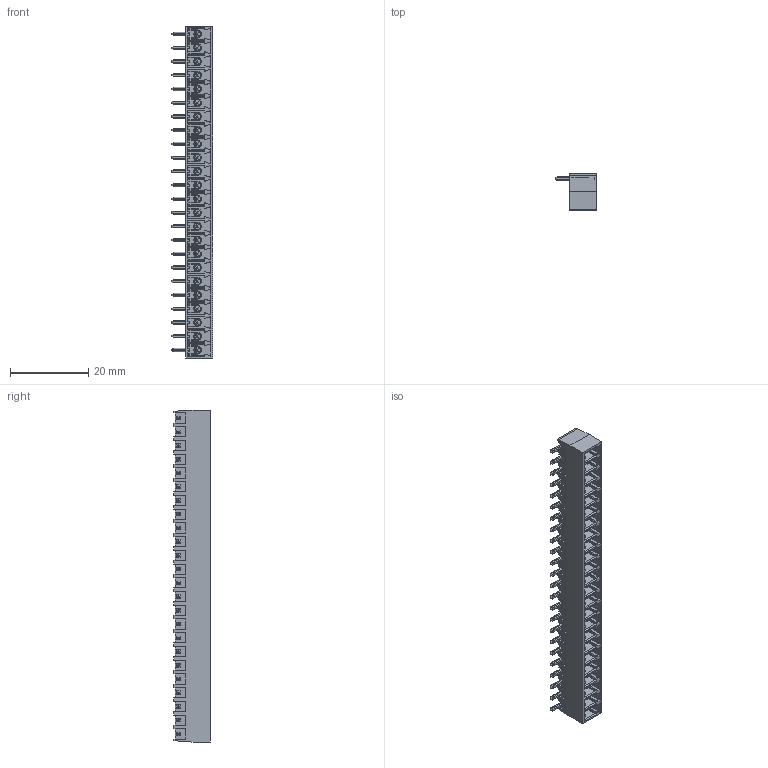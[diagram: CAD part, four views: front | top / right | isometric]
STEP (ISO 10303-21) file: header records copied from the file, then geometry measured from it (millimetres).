
FILE_DESCRIPTION (( 'STEP AP214' ), '1' );
FILE_NAME ('110-M-111-24.STEP', '2007-10-26T02:40:03', ( ' ' ), ( '' ), 'SwSTEP 2.0', 'SolidWorks 2007', '' );
FILE_SCHEMA (( 'AUTOMOTIVE_DESIGN' ));
Products named in the file (1): 110-M-111-24
Bounding box: 10.5 x 9.2 x 84.6 mm (x, y, z)
Volume: 2229 mm3; surface area: 7766.7 mm2
Topology: 1 solids, 1 shells, 4569 faces, 12844 edges, 8209 vertices
Faces by surface type: plane 3104, cylinder 1153, bspline 142, cone 122, sphere 48
Entity records: 154580 total; most frequent: CARTESIAN_POINT 46609, ORIENTED_EDGE 25552, DIRECTION 17714, EDGE_CURVE 12776, VERTEX_POINT 8209, VECTOR 7786, LINE 7786, AXIS2_PLACEMENT_3D 4964
